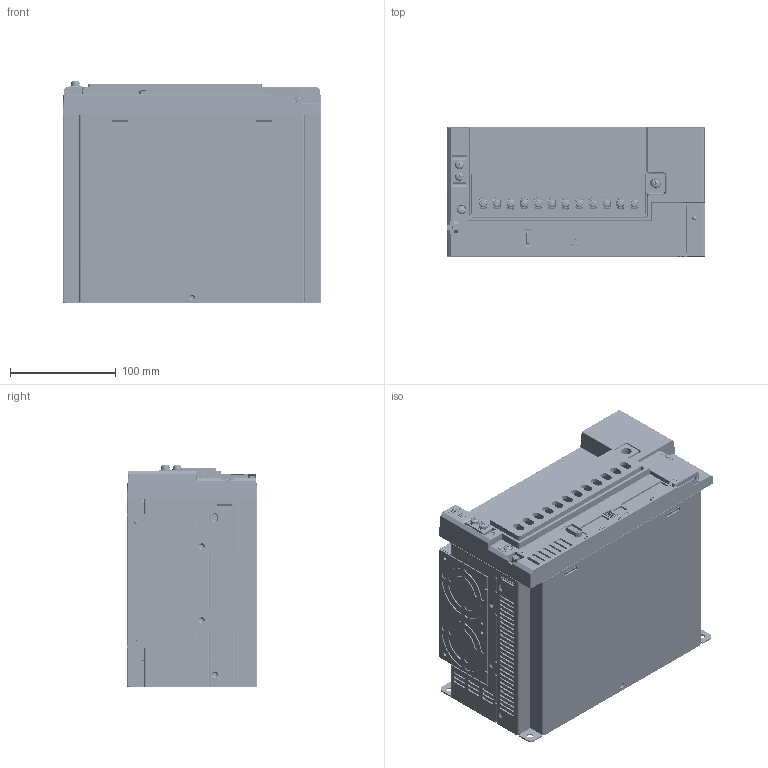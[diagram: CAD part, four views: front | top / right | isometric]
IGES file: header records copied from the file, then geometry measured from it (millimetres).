
Global section: file name: HNo Iges File Name specified; native system: AutoDesk Inventor R12.0; preprocessor: AutoDesk Inventor Iges Exporter R12.0; author: No Author specified; organization: No Organization specified; date: 20210415.190826; units: millimetre
Bounding box: 245 x 123.5 x 210.76 mm (x, y, z)
Volume: 5326443.2 mm3; surface area: 542007.1 mm2
Topology: 1 solids, 7 shells, 8855 faces, 25316 edges, 16766 vertices
Faces by surface type: plane 6810, cylinder 778, revolution 698, bspline 335, cone 120, torus 60, sphere 54
